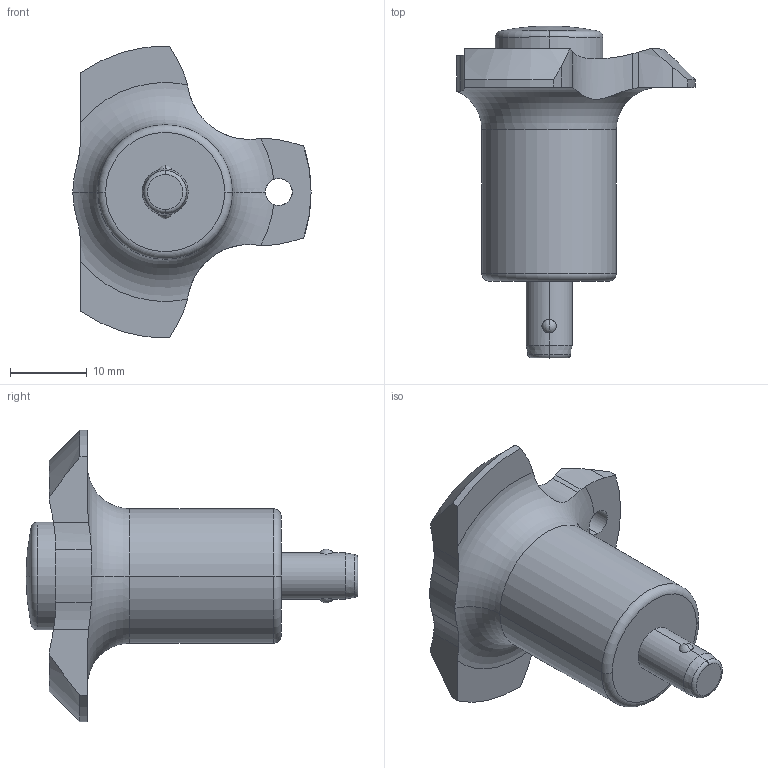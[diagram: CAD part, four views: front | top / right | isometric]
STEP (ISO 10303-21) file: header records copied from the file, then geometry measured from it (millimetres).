
FILE_DESCRIPTION (( 'STEP AP203' ), '1' );
FILE_NAME ('33180.W0010.step', '2025-01-06T11:14:26', ( '' ), ( '' ), 'SwSTEP 2.0', 'SolidWorks 2019', '' );
FILE_SCHEMA (( 'CONFIG_CONTROL_DESIGN' ));
Length unit declared in the file: millimetre
Products named in the file (4): Part1_33180.W0010; Part2_3318.W010; 33180.W0010; Part3_33180.W0010
Assembly tree (3 placements, depth 2):
  33180.W0010
    Part1_33180.W0010
    Part2_3318.W010
    Part3_33180.W0010
Bounding box: 31 x 43.2 x 37.98 mm (x, y, z)
Volume: 8105.6 mm3; surface area: 5872.2 mm2
Topology: 3 solids, 3 shells, 68 faces, 177 edges, 113 vertices
Faces by surface type: cylinder 26, plane 20, torus 8, sphere 8, cone 6
Entity records: 2767 total; most frequent: CARTESIAN_POINT 683, DIRECTION 371, ORIENTED_EDGE 354, EDGE_CURVE 177, AXIS2_PLACEMENT_3D 161, VERTEX_POINT 113, CIRCLE 87, EDGE_LOOP 70
